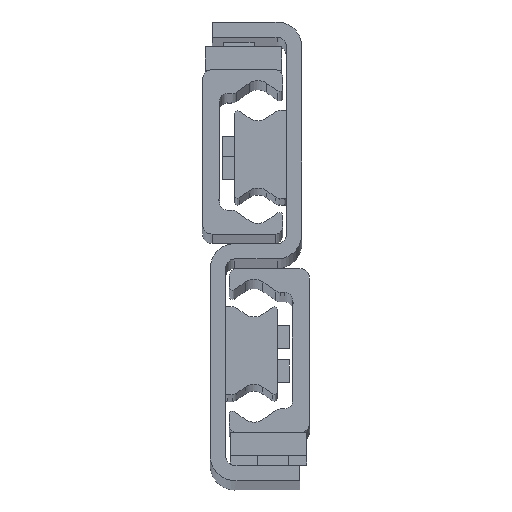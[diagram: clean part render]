
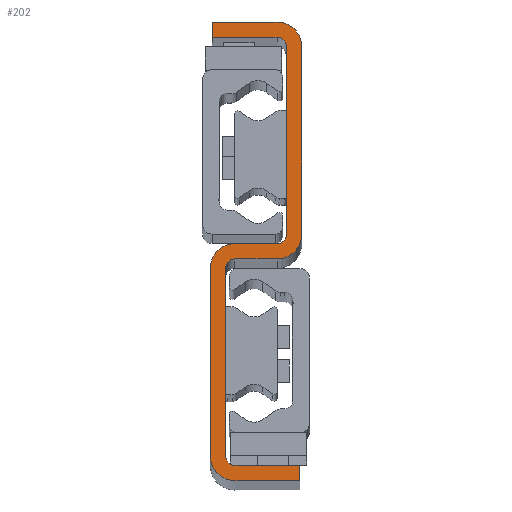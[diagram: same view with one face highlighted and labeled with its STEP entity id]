
A CAD part, top view. The second image highlights one B-rep face of the part: STEP entity #202.
In plain terms, the highlighted planar face has unit normal (0, 0, 1).
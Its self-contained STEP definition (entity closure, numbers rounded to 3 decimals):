
#202=ADVANCED_FACE('',(#705),#706,.T.);
#705=FACE_OUTER_BOUND('',#1515,.T.);
#706=PLANE('',#1516);
#1515=EDGE_LOOP('',(#3021,#3022,#3023,#3024,#3025,#3026,#3027,#3028,#3029,#3030,#3031,#3032,#3033,#3034,#3035,#3036,#3037,#3038,#3039,#3040));
#1516=AXIS2_PLACEMENT_3D('',#3041,#3042,#3043);
#3021=ORIENTED_EDGE('',*,*,#5269,.F.);
#3022=ORIENTED_EDGE('',*,*,#5327,.F.);
#3023=ORIENTED_EDGE('',*,*,#5324,.F.);
#3024=ORIENTED_EDGE('',*,*,#5321,.F.);
#3025=ORIENTED_EDGE('',*,*,#5318,.F.);
#3026=ORIENTED_EDGE('',*,*,#5315,.F.);
#3027=ORIENTED_EDGE('',*,*,#5312,.F.);
#3028=ORIENTED_EDGE('',*,*,#5309,.F.);
#3029=ORIENTED_EDGE('',*,*,#5306,.F.);
#3030=ORIENTED_EDGE('',*,*,#5303,.F.);
#3031=ORIENTED_EDGE('',*,*,#5300,.F.);
#3032=ORIENTED_EDGE('',*,*,#5297,.F.);
#3033=ORIENTED_EDGE('',*,*,#5294,.F.);
#3034=ORIENTED_EDGE('',*,*,#5291,.F.);
#3035=ORIENTED_EDGE('',*,*,#5288,.F.);
#3036=ORIENTED_EDGE('',*,*,#5285,.F.);
#3037=ORIENTED_EDGE('',*,*,#5282,.F.);
#3038=ORIENTED_EDGE('',*,*,#5279,.F.);
#3039=ORIENTED_EDGE('',*,*,#5276,.F.);
#3040=ORIENTED_EDGE('',*,*,#5273,.F.);
#3041=CARTESIAN_POINT('',(-14.,26.,1410.0));
#3042=DIRECTION('',(0.0,0.0,1.0));
#3043=DIRECTION('',(1.0,0.0,0.0));
#5269=EDGE_CURVE('',#6387,#6388,#6389,.T.);
#5273=EDGE_CURVE('',#6388,#6395,#6396,.T.);
#5276=EDGE_CURVE('',#6395,#6400,#6401,.T.);
#5279=EDGE_CURVE('',#6400,#6405,#6406,.T.);
#5282=EDGE_CURVE('',#6405,#6410,#6411,.T.);
#5285=EDGE_CURVE('',#6410,#6415,#6416,.T.);
#5288=EDGE_CURVE('',#6415,#6420,#6421,.T.);
#5291=EDGE_CURVE('',#6420,#6425,#6426,.T.);
#5294=EDGE_CURVE('',#6425,#6430,#6431,.T.);
#5297=EDGE_CURVE('',#6430,#6435,#6436,.T.);
#5300=EDGE_CURVE('',#6435,#6440,#6441,.T.);
#5303=EDGE_CURVE('',#6440,#6445,#6446,.T.);
#5306=EDGE_CURVE('',#6445,#6450,#6451,.T.);
#5309=EDGE_CURVE('',#6450,#6455,#6456,.T.);
#5312=EDGE_CURVE('',#6455,#6460,#6461,.T.);
#5315=EDGE_CURVE('',#6460,#6465,#6466,.T.);
#5318=EDGE_CURVE('',#6465,#6470,#6471,.T.);
#5321=EDGE_CURVE('',#6470,#6475,#6476,.T.);
#5324=EDGE_CURVE('',#6475,#6480,#6481,.T.);
#5327=EDGE_CURVE('',#6480,#6387,#6485,.T.);
#6387=VERTEX_POINT('',#8125);
#6388=VERTEX_POINT('',#8126);
#6389=LINE('',#8127,#8128);
#6395=VERTEX_POINT('',#8137);
#6396=CIRCLE('',#8138,2.5);
#6400=VERTEX_POINT('',#8143);
#6401=LINE('',#8144,#8145);
#6405=VERTEX_POINT('',#8151);
#6406=CIRCLE('',#8152,2.5);
#6410=VERTEX_POINT('',#8157);
#6411=LINE('',#8158,#8159);
#6415=VERTEX_POINT('',#8165);
#6416=LINE('',#8166,#8167);
#6420=VERTEX_POINT('',#8173);
#6421=LINE('',#8174,#8175);
#6425=VERTEX_POINT('',#8181);
#6426=CIRCLE('',#8182,6.5);
#6430=VERTEX_POINT('',#8187);
#6431=LINE('',#8188,#8189);
#6435=VERTEX_POINT('',#8195);
#6436=CIRCLE('',#8196,6.5);
#6440=VERTEX_POINT('',#8201);
#6441=LINE('',#8202,#8203);
#6445=VERTEX_POINT('',#8209);
#6446=CIRCLE('',#8210,2.5);
#6450=VERTEX_POINT('',#8215);
#6451=LINE('',#8216,#8217);
#6455=VERTEX_POINT('',#8223);
#6456=CIRCLE('',#8224,2.5);
#6460=VERTEX_POINT('',#8229);
#6461=LINE('',#8230,#8231);
#6465=VERTEX_POINT('',#8237);
#6466=LINE('',#8238,#8239);
#6470=VERTEX_POINT('',#8245);
#6471=LINE('',#8246,#8247);
#6475=VERTEX_POINT('',#8253);
#6476=CIRCLE('',#8254,6.5);
#6480=VERTEX_POINT('',#8259);
#6481=LINE('',#8260,#8261);
#6485=CIRCLE('',#8267,6.5);
#8125=CARTESIAN_POINT('',(-8.5,24.,1410.0));
#8126=CARTESIAN_POINT('',(-19.5,24.,1410.0));
#8127=CARTESIAN_POINT('',(-8.5,24.,1410.0));
#8128=VECTOR('',#10013,1.0);
#8137=CARTESIAN_POINT('',(-22.,21.5,1410.0));
#8138=AXIS2_PLACEMENT_3D('',#10017,#10018,#10019);
#8143=CARTESIAN_POINT('',(-22.,-27.5,1410.0));
#8144=CARTESIAN_POINT('',(-22.,-27.5,1410.0));
#8145=VECTOR('',#10024,1.0);
#8151=CARTESIAN_POINT('',(-19.5,-30.,1410.0));
#8152=AXIS2_PLACEMENT_3D('',#10027,#10028,#10029);
#8157=CARTESIAN_POINT('',(-2.5,-30.,1410.0));
#8158=CARTESIAN_POINT('',(-19.5,-30.,1410.0));
#8159=VECTOR('',#10034,1.0);
#8165=CARTESIAN_POINT('',(-2.5,-34.,1410.0));
#8166=CARTESIAN_POINT('',(-2.5,-34.,1410.0));
#8167=VECTOR('',#10037,1.0);
#8173=CARTESIAN_POINT('',(-19.5,-34.,1410.0));
#8174=CARTESIAN_POINT('',(-19.5,-34.,1410.0));
#8175=VECTOR('',#10040,1.0);
#8181=CARTESIAN_POINT('',(-26.,-27.5,1410.0));
#8182=AXIS2_PLACEMENT_3D('',#10043,#10044,#10045);
#8187=CARTESIAN_POINT('',(-26.,21.5,1410.0));
#8188=CARTESIAN_POINT('',(-26.,21.5,1410.0));
#8189=VECTOR('',#10050,1.0);
#8195=CARTESIAN_POINT('',(-19.5,28.,1410.0));
#8196=AXIS2_PLACEMENT_3D('',#10053,#10054,#10055);
#8201=CARTESIAN_POINT('',(-8.5,28.,1410.0));
#8202=CARTESIAN_POINT('',(-8.5,28.,1410.0));
#8203=VECTOR('',#10060,1.0);
#8209=CARTESIAN_POINT('',(-6.,30.5,1410.0));
#8210=AXIS2_PLACEMENT_3D('',#10063,#10064,#10065);
#8215=CARTESIAN_POINT('',(-6.,79.5,1410.0));
#8216=CARTESIAN_POINT('',(-6.,79.5,1410.0));
#8217=VECTOR('',#10070,1.0);
#8223=CARTESIAN_POINT('',(-8.5,82.,1410.0));
#8224=AXIS2_PLACEMENT_3D('',#10073,#10074,#10075);
#8229=CARTESIAN_POINT('',(-25.5,82.,1410.0));
#8230=CARTESIAN_POINT('',(-25.5,82.,1410.0));
#8231=VECTOR('',#10080,1.0);
#8237=CARTESIAN_POINT('',(-25.5,86.,1410.0));
#8238=CARTESIAN_POINT('',(-25.5,86.,1410.0));
#8239=VECTOR('',#10083,1.0);
#8245=CARTESIAN_POINT('',(-8.5,86.,1410.0));
#8246=CARTESIAN_POINT('',(-25.5,86.,1410.0));
#8247=VECTOR('',#10086,1.0);
#8253=CARTESIAN_POINT('',(-2.,79.5,1410.0));
#8254=AXIS2_PLACEMENT_3D('',#10089,#10090,#10091);
#8259=CARTESIAN_POINT('',(-2.,30.5,1410.0));
#8260=CARTESIAN_POINT('',(-2.,79.5,1410.0));
#8261=VECTOR('',#10096,1.0);
#8267=AXIS2_PLACEMENT_3D('',#10099,#10100,#10101);
#10013=DIRECTION('',(-1.0,0.,0.0));
#10017=CARTESIAN_POINT('',(-19.5,21.5,1410.0));
#10018=DIRECTION('',(0.0,0.0,1.0));
#10019=DIRECTION('',(1.0,0.0,0.0));
#10024=DIRECTION('',(-0.0,-1.0,-0.0));
#10027=CARTESIAN_POINT('',(-19.5,-27.5,1410.0));
#10028=DIRECTION('',(0.0,0.0,1.0));
#10029=DIRECTION('',(1.0,0.0,0.0));
#10034=DIRECTION('',(1.,0.,0.0));
#10037=DIRECTION('',(-0.0,-1.0,-0.0));
#10040=DIRECTION('',(-1.,0.,-0.0));
#10043=CARTESIAN_POINT('',(-19.5,-27.5,1410.0));
#10044=DIRECTION('',(0.0,0.0,-1.0));
#10045=DIRECTION('',(1.0,0.0,0.0));
#10050=DIRECTION('',(0.0,1.0,0.0));
#10053=CARTESIAN_POINT('',(-19.5,21.5,1410.0));
#10054=DIRECTION('',(0.0,0.0,-1.0));
#10055=DIRECTION('',(1.0,0.0,0.0));
#10060=DIRECTION('',(1.0,0.,0.0));
#10063=CARTESIAN_POINT('',(-8.5,30.5,1410.0));
#10064=DIRECTION('',(0.0,0.0,1.0));
#10065=DIRECTION('',(1.0,0.0,0.0));
#10070=DIRECTION('',(0.0,1.0,0.0));
#10073=CARTESIAN_POINT('',(-8.5,79.5,1410.0));
#10074=DIRECTION('',(0.0,0.0,1.0));
#10075=DIRECTION('',(1.0,0.0,0.0));
#10080=DIRECTION('',(-1.,0.,0.0));
#10083=DIRECTION('',(0.0,1.0,0.0));
#10086=DIRECTION('',(1.,0.,0.0));
#10089=CARTESIAN_POINT('',(-8.5,79.5,1410.0));
#10090=DIRECTION('',(0.0,0.0,-1.0));
#10091=DIRECTION('',(1.0,0.0,0.0));
#10096=DIRECTION('',(0.,-1.0,0.0));
#10099=CARTESIAN_POINT('',(-8.5,30.5,1410.0));
#10100=DIRECTION('',(0.0,0.0,-1.0));
#10101=DIRECTION('',(1.0,0.0,0.0));
